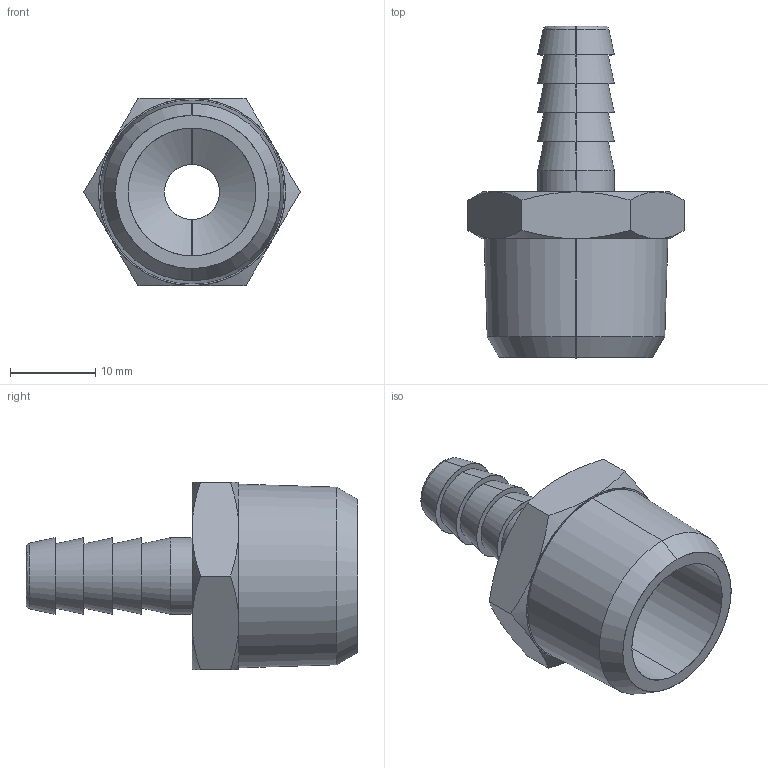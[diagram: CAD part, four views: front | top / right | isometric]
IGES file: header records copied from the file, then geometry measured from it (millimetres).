
Start section: SolidWorks IGES file using analytic representation for surfaces
Global section: file name: K:\Disegni Esecutivi\Accessori\3040\030400001CD00.IGS; native system: SolidWorks 2007; preprocessor: SolidWorks 2007; author: cad02; date: 071019.162223; units: millimetre
Bounding box: 25.4 x 39 x 22 mm (x, y, z)
Surface area: 3755.4 mm2 (no closed solid volume)
Topology: 0 solids, 0 shells, 50 faces, 856 edges, 856 vertices
Faces by surface type: revolution 34, bspline 16
